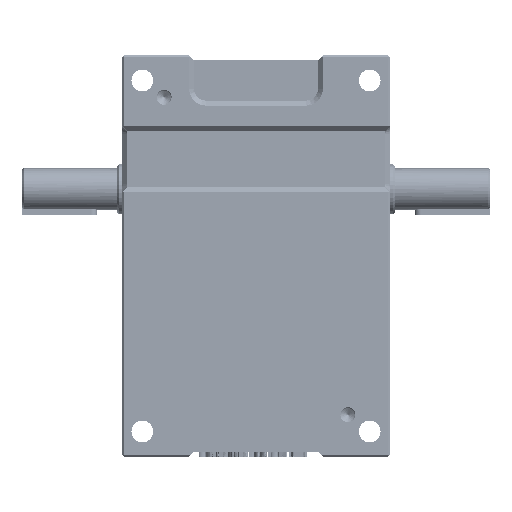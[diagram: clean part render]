
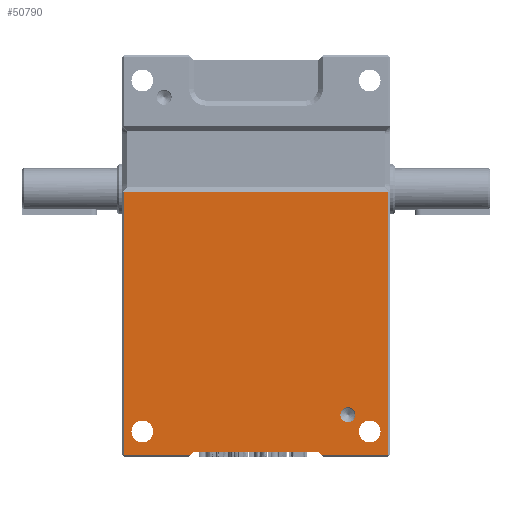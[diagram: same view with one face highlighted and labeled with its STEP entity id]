
A CAD part, front view. The second image highlights one B-rep face of the part: STEP entity #50790.
In plain terms, the highlighted planar face has unit normal (0, -1, 0).
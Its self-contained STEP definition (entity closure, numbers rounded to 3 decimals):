
#1160 = ORIENTED_EDGE ( 'NONE', *, *, #57224, .F. ) ;
#1895 = CARTESIAN_POINT ( 'NONE',  ( 55., 0., -90.5 ) ) ;
#3121 = CARTESIAN_POINT ( 'NONE',  ( 37., 0., -117. ) ) ;
#3340 = VERTEX_POINT ( 'NONE', #56148 ) ;
#4149 = CARTESIAN_POINT ( 'NONE',  ( -68., 0., -111.5 ) ) ;
#4151 = EDGE_CURVE ( 'NONE', #33048, #59356, #14884, .T. ) ;
#5098 = DIRECTION ( 'NONE',  ( 0., 0., 1. ) ) ;
#5825 = DIRECTION ( 'NONE',  ( 0., 0., 1. ) ) ;
#5889 = VECTOR ( 'NONE', #91214, 1000. ) ;
#8618 = LINE ( 'NONE', #22037, #5889 ) ;
#9755 = AXIS2_PLACEMENT_3D ( 'NONE', #76071, #24576, #84766 ) ;
#10044 = DIRECTION ( 'NONE',  ( 1., 0., 0. ) ) ;
#11579 = CIRCLE ( 'NONE', #63791, 6.5 ) ;
#12292 = CARTESIAN_POINT ( 'NONE',  ( -79., 0., 38. ) ) ;
#12541 = CARTESIAN_POINT ( 'NONE',  ( -79., 0., 0. ) ) ;
#13702 = VERTEX_POINT ( 'NONE', #60777 ) ;
#13870 = VECTOR ( 'NONE', #56151, 1000. ) ;
#14650 = FACE_BOUND ( 'NONE', #48869, .T. ) ;
#14847 = AXIS2_PLACEMENT_3D ( 'NONE', #108967, #57352, #5825 ) ;
#14884 = LINE ( 'NONE', #26651, #47405 ) ;
#15022 = EDGE_CURVE ( 'NONE', #3340, #106718, #20785, .T. ) ;
#16785 = EDGE_CURVE ( 'NONE', #89909, #60689, #75860, .T. ) ;
#17958 = ORIENTED_EDGE ( 'NONE', *, *, #75137, .F. ) ;
#18872 = AXIS2_PLACEMENT_3D ( 'NONE', #89588, #106544, #38104 ) ;
#19244 = CARTESIAN_POINT ( 'NONE',  ( 0., 0., -117. ) ) ;
#19278 = DIRECTION ( 'NONE',  ( 0., -1., 0. ) ) ;
#20785 = LINE ( 'NONE', #21459, #106922 ) ;
#21459 = CARTESIAN_POINT ( 'NONE',  ( 0., 0., -119. ) ) ;
#22037 = CARTESIAN_POINT ( 'NONE',  ( -37., 0., -117. ) ) ;
#22316 = VECTOR ( 'NONE', #109843, 1000. ) ;
#24336 = VECTOR ( 'NONE', #38595, 1000. ) ;
#24576 = DIRECTION ( 'NONE',  ( 0., -1., 0. ) ) ;
#24664 = VERTEX_POINT ( 'NONE', #108070 ) ;
#26617 = CARTESIAN_POINT ( 'NONE',  ( -68., 0., -98.5 ) ) ;
#26651 = CARTESIAN_POINT ( 'NONE',  ( 0., 0., 38. ) ) ;
#28479 = EDGE_CURVE ( 'NONE', #106718, #33048, #108174, .T. ) ;
#30164 = ORIENTED_EDGE ( 'NONE', *, *, #39190, .F. ) ;
#31966 = VERTEX_POINT ( 'NONE', #54633 ) ;
#32087 = CARTESIAN_POINT ( 'NONE',  ( 39., 0., -119. ) ) ;
#33048 = VERTEX_POINT ( 'NONE', #12292 ) ;
#33231 = EDGE_CURVE ( 'NONE', #31966, #24664, #48567, .T. ) ;
#37647 = FACE_BOUND ( 'NONE', #99557, .T. ) ;
#38104 = DIRECTION ( 'NONE',  ( 0., 0., 1. ) ) ;
#38595 = DIRECTION ( 'NONE',  ( 0., 0., -1. ) ) ;
#38611 = ORIENTED_EDGE ( 'NONE', *, *, #95640, .F. ) ;
#38768 = DIRECTION ( 'NONE',  ( -1., 0., 0. ) ) ;
#39190 = EDGE_CURVE ( 'NONE', #13702, #3340, #8618, .T. ) ;
#39955 = LINE ( 'NONE', #19244, #85712 ) ;
#42499 = LINE ( 'NONE', #58237, #22316 ) ;
#43973 = VERTEX_POINT ( 'NONE', #26617 ) ;
#45288 = DIRECTION ( 'NONE',  ( 0., -1., 0. ) ) ;
#46089 = DIRECTION ( 'NONE',  ( 0., -1., 0. ) ) ;
#47129 = VERTEX_POINT ( 'NONE', #4149 ) ;
#47405 = VECTOR ( 'NONE', #10044, 1000. ) ;
#48567 = CIRCLE ( 'NONE', #101550, 6.5 ) ;
#48869 = EDGE_LOOP ( 'NONE', ( #58684, #52289 ) ) ;
#50293 = VECTOR ( 'NONE', #106980, 1000. ) ;
#50539 = CARTESIAN_POINT ( 'NONE',  ( 55., 0., -99.5 ) ) ;
#50790 = ADVANCED_FACE ( 'NONE', ( #83339, #14650, #106259, #37647 ), #97517, .F. ) ;
#52289 = ORIENTED_EDGE ( 'NONE', *, *, #33231, .F. ) ;
#54633 = CARTESIAN_POINT ( 'NONE',  ( 68., 0., -111.5 ) ) ;
#55364 = CARTESIAN_POINT ( 'NONE',  ( 39., 0., -119. ) ) ;
#56148 = CARTESIAN_POINT ( 'NONE',  ( -39., 0., -119. ) ) ;
#56151 = DIRECTION ( 'NONE',  ( 0., 0., 1. ) ) ;
#56613 = DIRECTION ( 'NONE',  ( 0., -1., 0. ) ) ;
#56726 = EDGE_CURVE ( 'NONE', #47129, #43973, #11579, .T. ) ;
#57032 = ORIENTED_EDGE ( 'NONE', *, *, #56726, .F. ) ;
#57088 = EDGE_CURVE ( 'NONE', #24664, #31966, #64040, .T. ) ;
#57224 = EDGE_CURVE ( 'NONE', #76384, #65399, #78867, .T. ) ;
#57352 = DIRECTION ( 'NONE',  ( 0., -1., 0. ) ) ;
#57558 = EDGE_CURVE ( 'NONE', #69738, #89909, #42499, .T. ) ;
#58237 = CARTESIAN_POINT ( 'NONE',  ( 0., 0., -119. ) ) ;
#58684 = ORIENTED_EDGE ( 'NONE', *, *, #57088, .F. ) ;
#59133 = ORIENTED_EDGE ( 'NONE', *, *, #99202, .F. ) ;
#59356 = VERTEX_POINT ( 'NONE', #85875 ) ;
#60689 = VERTEX_POINT ( 'NONE', #3121 ) ;
#60777 = CARTESIAN_POINT ( 'NONE',  ( -37., 0., -117. ) ) ;
#63791 = AXIS2_PLACEMENT_3D ( 'NONE', #97663, #46089, #106306 ) ;
#63879 = EDGE_CURVE ( 'NONE', #59356, #69738, #95710, .T. ) ;
#64040 = CIRCLE ( 'NONE', #9755, 6.5 ) ;
#64109 = CARTESIAN_POINT ( 'NONE',  ( 79., 0., 0. ) ) ;
#65399 = VERTEX_POINT ( 'NONE', #1895 ) ;
#69121 = ORIENTED_EDGE ( 'NONE', *, *, #63879, .F. ) ;
#69738 = VERTEX_POINT ( 'NONE', #95989 ) ;
#70737 = DIRECTION ( 'NONE',  ( -1., 0., 0. ) ) ;
#70767 = CARTESIAN_POINT ( 'NONE',  ( 55., 0., -95. ) ) ;
#73184 = AXIS2_PLACEMENT_3D ( 'NONE', #70767, #19278, #79468 ) ;
#75137 = EDGE_CURVE ( 'NONE', #65399, #76384, #86091, .T. ) ;
#75860 = LINE ( 'NONE', #55364, #50293 ) ;
#76071 = CARTESIAN_POINT ( 'NONE',  ( 68., 0., -105. ) ) ;
#76384 = VERTEX_POINT ( 'NONE', #50539 ) ;
#78867 = CIRCLE ( 'NONE', #73184, 4.5 ) ;
#79468 = DIRECTION ( 'NONE',  ( 0., 0., -1. ) ) ;
#83339 = FACE_OUTER_BOUND ( 'NONE', #87747, .T. ) ;
#84766 = DIRECTION ( 'NONE',  ( 0., 0., 1. ) ) ;
#85712 = VECTOR ( 'NONE', #70737, 1000. ) ;
#85875 = CARTESIAN_POINT ( 'NONE',  ( 79., 0., 38. ) ) ;
#86091 = CIRCLE ( 'NONE', #108250, 4.5 ) ;
#87747 = EDGE_LOOP ( 'NONE', ( #30164, #38611, #88905, #94515, #69121, #107160, #87875, #98794 ) ) ;
#87875 = ORIENTED_EDGE ( 'NONE', *, *, #28479, .F. ) ;
#88905 = ORIENTED_EDGE ( 'NONE', *, *, #16785, .F. ) ;
#89588 = CARTESIAN_POINT ( 'NONE',  ( 0., 0., 0. ) ) ;
#89909 = VERTEX_POINT ( 'NONE', #32087 ) ;
#91214 = DIRECTION ( 'NONE',  ( -0.707, 0., -0.707 ) ) ;
#92698 = CARTESIAN_POINT ( 'NONE',  ( -79., 0., -119. ) ) ;
#94515 = ORIENTED_EDGE ( 'NONE', *, *, #57558, .F. ) ;
#95640 = EDGE_CURVE ( 'NONE', #60689, #13702, #39955, .T. ) ;
#95710 = LINE ( 'NONE', #64109, #24336 ) ;
#95989 = CARTESIAN_POINT ( 'NONE',  ( 79., 0., -119. ) ) ;
#96769 = EDGE_LOOP ( 'NONE', ( #59133, #57032 ) ) ;
#96841 = CARTESIAN_POINT ( 'NONE',  ( 55., 0., -95. ) ) ;
#97517 = PLANE ( 'NONE',  #18872 ) ;
#97663 = CARTESIAN_POINT ( 'NONE',  ( -68., 0., -105. ) ) ;
#98794 = ORIENTED_EDGE ( 'NONE', *, *, #15022, .F. ) ;
#99202 = EDGE_CURVE ( 'NONE', #43973, #47129, #110533, .T. ) ;
#99557 = EDGE_LOOP ( 'NONE', ( #1160, #17958 ) ) ;
#101550 = AXIS2_PLACEMENT_3D ( 'NONE', #108222, #56613, #5098 ) ;
#105485 = DIRECTION ( 'NONE',  ( 0., 0., -1. ) ) ;
#106259 = FACE_BOUND ( 'NONE', #96769, .T. ) ;
#106306 = DIRECTION ( 'NONE',  ( 0., 0., 1. ) ) ;
#106544 = DIRECTION ( 'NONE',  ( 0., 1., 0. ) ) ;
#106718 = VERTEX_POINT ( 'NONE', #92698 ) ;
#106922 = VECTOR ( 'NONE', #38768, 1000. ) ;
#106980 = DIRECTION ( 'NONE',  ( -0.707, 0., 0.707 ) ) ;
#107160 = ORIENTED_EDGE ( 'NONE', *, *, #4151, .F. ) ;
#108070 = CARTESIAN_POINT ( 'NONE',  ( 68., 0., -98.5 ) ) ;
#108174 = LINE ( 'NONE', #12541, #13870 ) ;
#108222 = CARTESIAN_POINT ( 'NONE',  ( 68., 0., -105. ) ) ;
#108250 = AXIS2_PLACEMENT_3D ( 'NONE', #96841, #45288, #105485 ) ;
#108967 = CARTESIAN_POINT ( 'NONE',  ( -68., 0., -105. ) ) ;
#109843 = DIRECTION ( 'NONE',  ( -1., 0., 0. ) ) ;
#110533 = CIRCLE ( 'NONE', #14847, 6.5 ) ;
